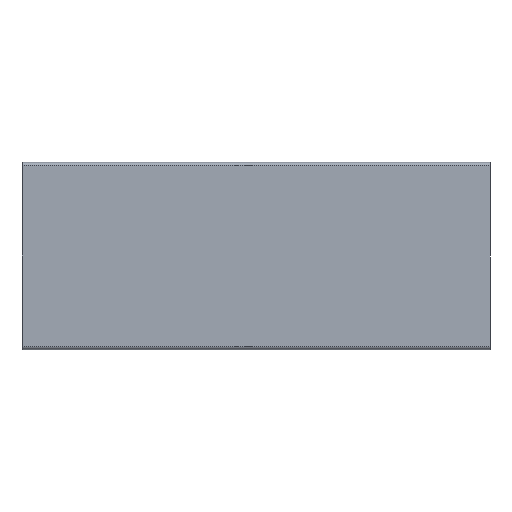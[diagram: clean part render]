
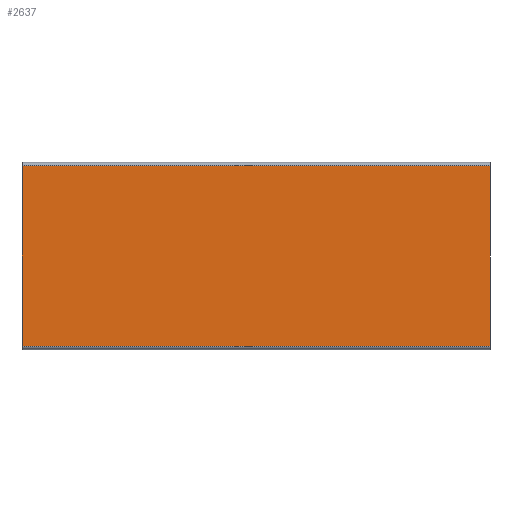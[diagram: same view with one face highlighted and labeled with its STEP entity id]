
A CAD part, front view. The second image highlights one B-rep face of the part: STEP entity #2637.
In plain terms, the highlighted planar face has unit normal (0, -1, 0).
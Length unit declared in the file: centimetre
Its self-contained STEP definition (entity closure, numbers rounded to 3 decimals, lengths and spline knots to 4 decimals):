
#137=PLANE('',#2955);
#328=FACE_OUTER_BOUND('',#514,.T.);
#514=EDGE_LOOP('',(#2215,#2216,#2217,#2218));
#680=LINE('',#4380,#873);
#687=LINE('',#4401,#880);
#692=LINE('',#4417,#885);
#694=LINE('',#4420,#887);
#873=VECTOR('',#3636,1.);
#880=VECTOR('',#3663,1.);
#885=VECTOR('',#3686,1.);
#887=VECTOR('',#3690,1.);
#1258=VERTEX_POINT('',#4377);
#1259=VERTEX_POINT('',#4379);
#1262=VERTEX_POINT('',#4398);
#1263=VERTEX_POINT('',#4400);
#1567=EDGE_CURVE('',#1259,#1258,#680,.T.);
#1578=EDGE_CURVE('',#1263,#1262,#687,.T.);
#1586=EDGE_CURVE('',#1259,#1262,#692,.T.);
#1588=EDGE_CURVE('',#1263,#1258,#694,.T.);
#2215=ORIENTED_EDGE('',*,*,#1567,.T.);
#2216=ORIENTED_EDGE('',*,*,#1588,.F.);
#2217=ORIENTED_EDGE('',*,*,#1578,.T.);
#2218=ORIENTED_EDGE('',*,*,#1586,.F.);
#2637=ADVANCED_FACE('',(#328),#137,.T.);
#2955=AXIS2_PLACEMENT_3D('',#4419,#3688,#3689);
#3636=DIRECTION('',(1.,0.,0.));
#3663=DIRECTION('',(-1.,0.,0.));
#3686=DIRECTION('',(0.,0.,1.));
#3688=DIRECTION('center_axis',(0.,-1.,0.));
#3689=DIRECTION('ref_axis',(1.,0.,0.));
#3690=DIRECTION('',(0.,0.,-1.));
#4377=CARTESIAN_POINT('',(13.5,-4.39,-5.2));
#4379=CARTESIAN_POINT('',(-13.5,-4.39,-5.2));
#4380=CARTESIAN_POINT('',(-6.75,-4.39,-5.2));
#4398=CARTESIAN_POINT('',(-13.5,-4.39,5.2));
#4400=CARTESIAN_POINT('',(13.5,-4.39,5.2));
#4401=CARTESIAN_POINT('',(6.75,-4.39,5.2));
#4417=CARTESIAN_POINT('',(-13.5,-4.39,-5.4));
#4419=CARTESIAN_POINT('Origin',(0.,-4.39,
0.));
#4420=CARTESIAN_POINT('',(13.5,-4.39,5.4));
